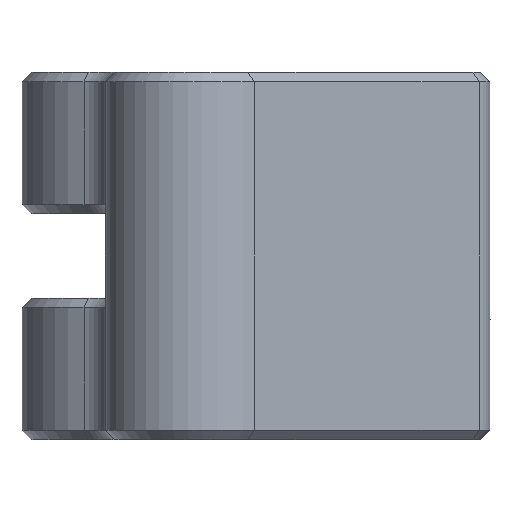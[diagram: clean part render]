
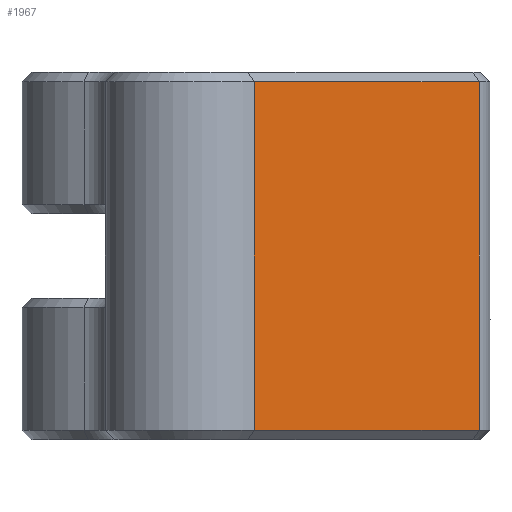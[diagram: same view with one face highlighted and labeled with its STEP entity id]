
A CAD part, left-side view. The second image highlights one B-rep face of the part: STEP entity #1967.
In plain terms, the highlighted planar face has unit normal (-0.707, -0.707, 0).
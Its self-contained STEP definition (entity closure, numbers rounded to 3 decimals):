
#1446=CARTESIAN_POINT('Vertex',(-3.359,-3.359,9.5)) ;
#1473=CARTESIAN_POINT('Line Origine',(5.789,-12.506,9.5)) ;
#1477=CARTESIAN_POINT('Vertex',(8.897,-15.614,9.5)) ;
#1880=CARTESIAN_POINT('Line Origine',(-3.359,-3.359,0.)) ;
#1884=CARTESIAN_POINT('Vertex',(-3.359,-3.359,-9.5)) ;
#1944=CARTESIAN_POINT('Axis2P3D Location',(-3.359,-3.359,0.)) ;
#1949=CARTESIAN_POINT('Line Origine',(8.897,-15.614,0.)) ;
#1953=CARTESIAN_POINT('Vertex',(8.897,-15.614,-9.5)) ;
#1956=CARTESIAN_POINT('Line Origine',(2.769,-9.486,-9.5)) ;
#1474=DIRECTION('Vector Direction',(-0.707,0.707,0.)) ;
#1881=DIRECTION('Vector Direction',(0.,0.,1.)) ;
#1945=DIRECTION('Axis2P3D Direction',(-0.707,-0.707,0.)) ;
#1946=DIRECTION('Axis2P3D XDirection',(0.707,-0.707,0.)) ;
#1950=DIRECTION('Vector Direction',(0.,0.,1.)) ;
#1957=DIRECTION('Vector Direction',(-0.707,0.707,0.)) ;
#1947=AXIS2_PLACEMENT_3D('Plane Axis2P3D',#1944,#1945,#1946) ;
#1962=ORIENTED_EDGE('',*,*,#1955,.T.) ;
#1963=ORIENTED_EDGE('',*,*,#1479,.F.) ;
#1964=ORIENTED_EDGE('',*,*,#1886,.F.) ;
#1965=ORIENTED_EDGE('',*,*,#1960,.T.) ;
#1475=VECTOR('Line Direction',#1474,1.) ;
#1882=VECTOR('Line Direction',#1881,1.) ;
#1951=VECTOR('Line Direction',#1950,1.) ;
#1958=VECTOR('Line Direction',#1957,1.) ;
#1967=ADVANCED_FACE('PartBody',(#1966),#1948,.T.) ;
#1479=EDGE_CURVE('',#1447,#1478,#1476,.F.) ;
#1886=EDGE_CURVE('',#1885,#1447,#1883,.T.) ;
#1955=EDGE_CURVE('',#1954,#1478,#1952,.T.) ;
#1960=EDGE_CURVE('',#1885,#1954,#1959,.F.) ;
#1961=EDGE_LOOP('',(#1962,#1963,#1964,#1965)) ;
#1966=FACE_OUTER_BOUND('',#1961,.T.) ;
#1476=LINE('Line',#1473,#1475) ;
#1883=LINE('Line',#1880,#1882) ;
#1952=LINE('Line',#1949,#1951) ;
#1959=LINE('Line',#1956,#1958) ;
#1948=PLANE('Plane',#1947) ;
#1447=VERTEX_POINT('',#1446) ;
#1478=VERTEX_POINT('',#1477) ;
#1885=VERTEX_POINT('',#1884) ;
#1954=VERTEX_POINT('',#1953) ;
